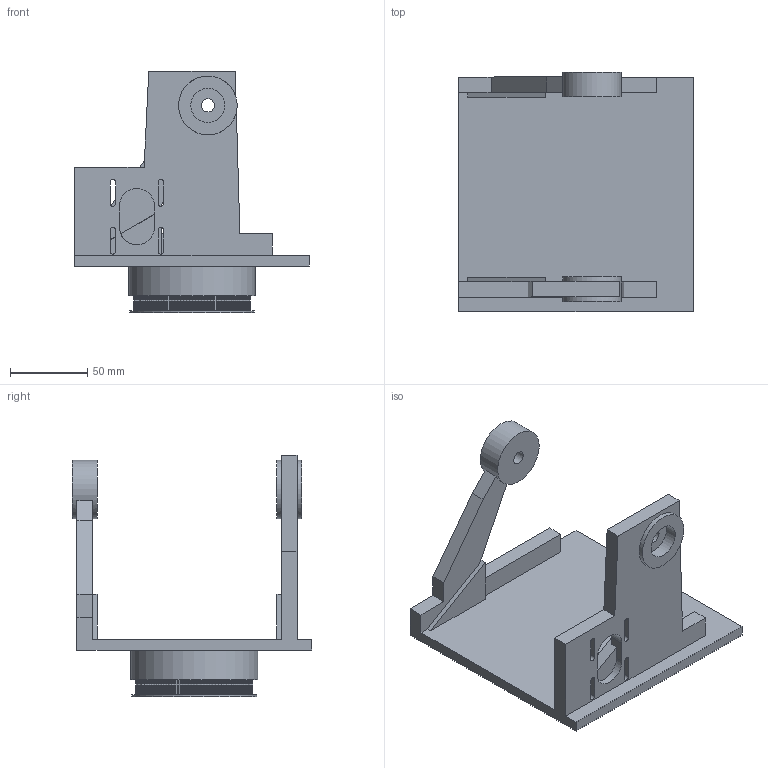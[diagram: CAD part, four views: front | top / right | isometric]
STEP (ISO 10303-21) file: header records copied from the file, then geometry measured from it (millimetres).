
FILE_DESCRIPTION(('FreeCAD Model'),'2;1');
FILE_NAME('Open CASCADE Shape Model','2026-08-28T20:43:36',('Author'),( ''),'Open CASCADE STEP processor 7.8','FreeCAD','Unknown');
FILE_SCHEMA(('AUTOMOTIVE_DESIGN { 1 0 10303 214 1 1 1 1 }'));
Length unit declared in the file: millimetre
Products named in the file (1): PAN_ROTATING_one_piece_platform_journal_120T_GT2
Bounding box: 152 x 155 x 156.1 mm (x, y, z)
Volume: 393404.6 mm3; surface area: 106458.9 mm2
Topology: 1 solids, 1 shells, 801 faces, 2383 edges, 1592 vertices
Faces by surface type: cylinder 623, plane 178
Full cylindrical faces by diameter (mm): 7.9 x1, 8.5 x2, 22.12 x2, 34.6 x1, 34.8 x1, 38 x2, 52.4 x1, 58 x1, 80.886 x1, 82 x1
Entity records: 27599 total; most frequent: DIRECTION 5251, CARTESIAN_POINT 4778, ORIENTED_EDGE 4766, EDGE_CURVE 2383, AXIS2_PLACEMENT_3D 2067, VERTEX_POINT 1592, CIRCLE 1265, LINE 1117
